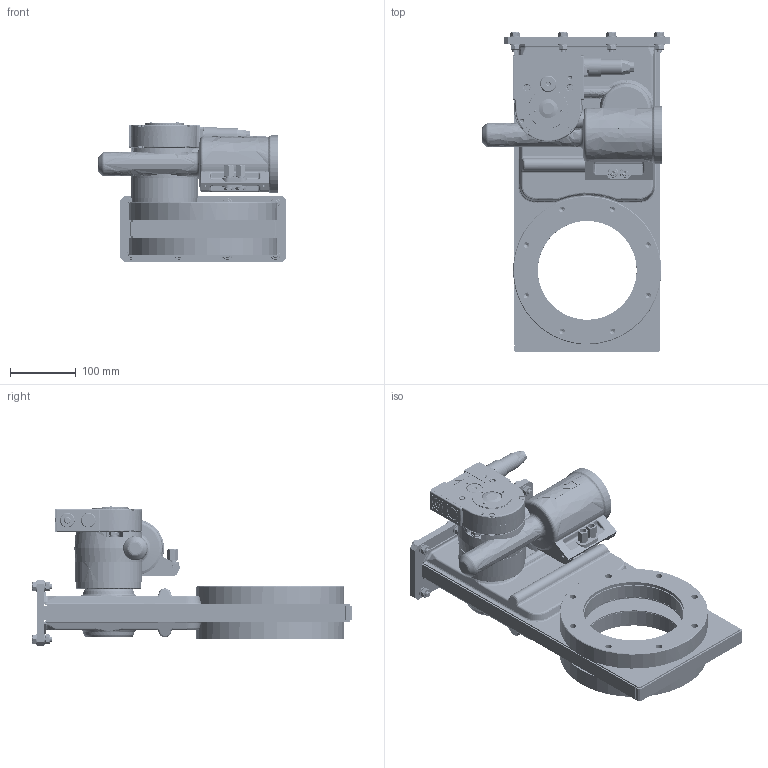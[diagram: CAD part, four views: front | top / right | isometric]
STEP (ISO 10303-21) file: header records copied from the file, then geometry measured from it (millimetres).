
FILE_DESCRIPTION((''),'2;1');
FILE_NAME('O:\MT\MT\Systeme\Cad\Datenexporte\www_vat_ch\236141.stp','2004-09-24T15:02:14',('User'),('SDRC'),'I-DEAS Master Series 9','UNIX','Yes');
FILE_SCHEMA(('CONFIG_CONTROL_DESIGN'));
Length unit declared in the file: millimetre
Assembly tree (78 placements, depth 0):
Bounding box: 286 x 483.9 x 211.95 mm (x, y, z)
Volume: 2986433.1 mm3; surface area: 1122100.7 mm2
Topology: 108 solids, 108 shells, 2690 faces, 6072 edges, 3854 vertices
Faces by surface type: bspline 2690
Entity records: 65920 total; most frequent: CARTESIAN_POINT 34671, ORIENTED_EDGE 8440, EDGE_CURVE 4220, VERTEX_POINT 2693, EDGE_LOOP 2151, FACE_OUTER_BOUND 1800, ADVANCED_FACE 1800, B_SPLINE_CURVE_WITH_KNOTS 1332
